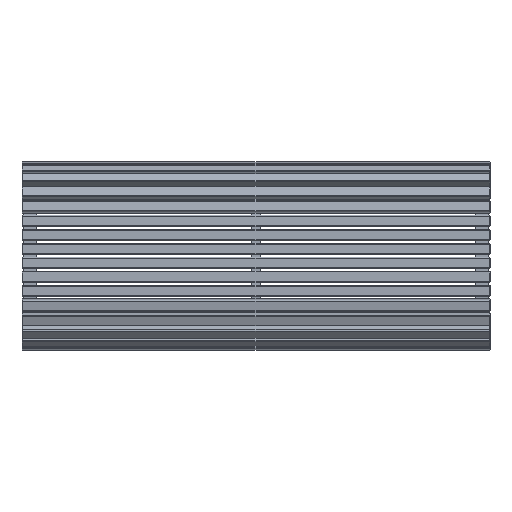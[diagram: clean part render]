
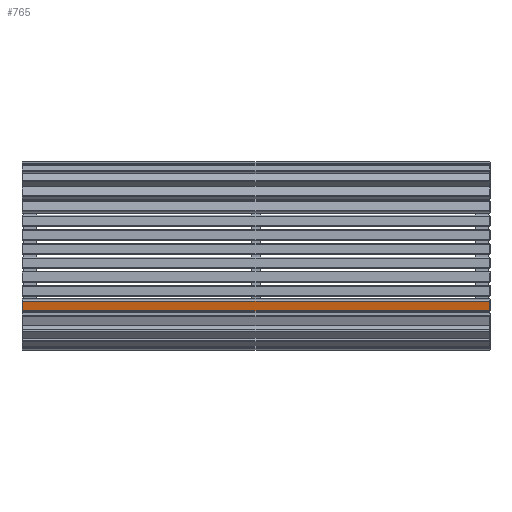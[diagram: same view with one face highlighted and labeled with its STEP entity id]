
A CAD part, top view. The second image highlights one B-rep face of the part: STEP entity #765.
In plain terms, the highlighted planar face has unit normal (0, -0.177, 0.984).
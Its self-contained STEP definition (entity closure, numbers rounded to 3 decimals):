
#765=ADVANCED_FACE('',(#1589),#11535,.T.);
#1589=FACE_OUTER_BOUND('',#2465,.T.);
#2465=EDGE_LOOP('',(#4264,#4265,#4266,#4267));
#4264=ORIENTED_EDGE('',*,*,#7086,.F.);
#4265=ORIENTED_EDGE('',*,*,#7084,.F.);
#4266=ORIENTED_EDGE('',*,*,#7087,.F.);
#4267=ORIENTED_EDGE('',*,*,#7085,.F.);
#7084=EDGE_CURVE('',#10221,#10220,#9371,.T.);
#7085=EDGE_CURVE('',#10222,#10223,#9372,.T.);
#7086=EDGE_CURVE('',#10220,#10222,#9373,.T.);
#7087=EDGE_CURVE('',#10223,#10221,#9374,.T.);
#9371=B_SPLINE_CURVE_WITH_KNOTS('',1,(#19475,#19476),.UNSPECIFIED.,.F.,
 .F.,(2,2),(-43.2,14.2),.UNSPECIFIED.);
#9372=B_SPLINE_CURVE_WITH_KNOTS('',1,(#19477,#19478),.UNSPECIFIED.,.F.,
 .F.,(2,2),(-43.2,14.2),.UNSPECIFIED.);
#9373=B_SPLINE_CURVE_WITH_KNOTS('',1,(#19479,#19480),.UNSPECIFIED.,.F.,
 .F.,(2,2),(-2.85,0.75),.UNSPECIFIED.);
#9374=B_SPLINE_CURVE_WITH_KNOTS('',1,(#19481,#19482),.UNSPECIFIED.,.F.,
 .F.,(2,2),(-2.85,0.75),.UNSPECIFIED.);
#10220=VERTEX_POINT('',#19447);
#10221=VERTEX_POINT('',#19448);
#10222=VERTEX_POINT('',#19449);
#10223=VERTEX_POINT('',#19450);
#11535=PLANE('',#11741);
#11741=AXIS2_PLACEMENT_3D('',#19294,#11930,$);
#11930=DIRECTION('',(0.,-0.177,0.984));
#19294=CARTESIAN_POINT('',(1747.03,147.508,422.556));
#19447=CARTESIAN_POINT('',(3.,147.518,422.558));
#19448=CARTESIAN_POINT('',(1747.,147.518,422.558));
#19449=CARTESIAN_POINT('',(3.,182.95,428.925));
#19450=CARTESIAN_POINT('',(1747.,182.95,428.925));
#19475=CARTESIAN_POINT('',(1747.,147.518,422.558));
#19476=CARTESIAN_POINT('',(3.,147.518,422.558));
#19477=CARTESIAN_POINT('',(3.,182.95,428.925));
#19478=CARTESIAN_POINT('',(1747.,182.95,428.925));
#19479=CARTESIAN_POINT('',(3.,147.518,422.558));
#19480=CARTESIAN_POINT('',(3.,182.95,428.925));
#19481=CARTESIAN_POINT('',(1747.,182.95,428.925));
#19482=CARTESIAN_POINT('',(1747.,147.518,422.558));
